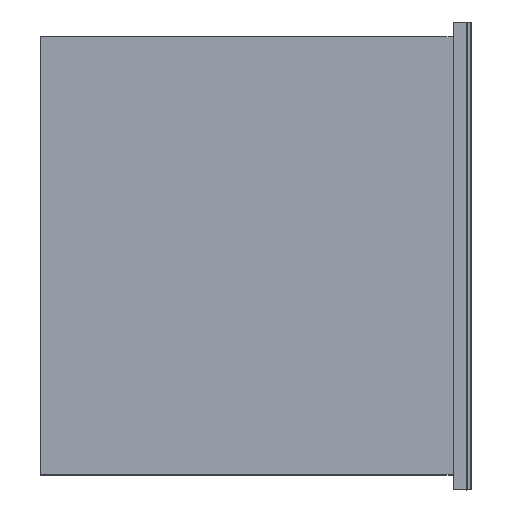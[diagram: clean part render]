
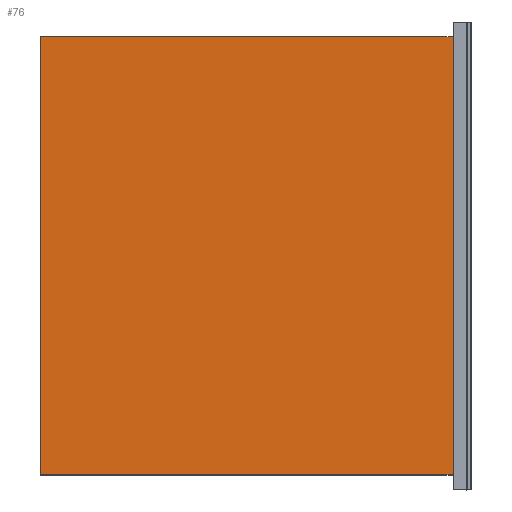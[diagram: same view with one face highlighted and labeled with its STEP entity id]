
A CAD part, top view. The second image highlights one B-rep face of the part: STEP entity #76.
In plain terms, the highlighted free-form (B-spline) face has degree [1, 1] with [2, 2] control points.
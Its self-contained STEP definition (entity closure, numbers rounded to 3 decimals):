
#76=ADVANCED_FACE('',(#104),#360,.T.);
#104=FACE_OUTER_BOUND('',#132,.T.);
#132=EDGE_LOOP('',(#229,#230,#231,#232));
#229=ORIENTED_EDGE('',*,*,#297,.F.);
#230=ORIENTED_EDGE('',*,*,#298,.T.);
#231=ORIENTED_EDGE('',*,*,#299,.T.);
#232=ORIENTED_EDGE('',*,*,#294,.F.);
#294=EDGE_CURVE('',#333,#335,#406,.T.);
#297=EDGE_CURVE('',#337,#333,#409,.T.);
#298=EDGE_CURVE('',#337,#338,#410,.T.);
#299=EDGE_CURVE('',#338,#335,#411,.T.);
#333=VERTEX_POINT('',#776);
#335=VERTEX_POINT('',#778);
#337=VERTEX_POINT('',#780);
#338=VERTEX_POINT('',#781);
#360=B_SPLINE_SURFACE_WITH_KNOTS('',1,1,((#756,#757),(#758,#759)),.UNSPECIFIED.,
.F.,.F.,.F.,(2,2),(2,2),(0.,1.),(0.,1.),.UNSPECIFIED.);
#406=B_SPLINE_CURVE_WITH_KNOTS('',1,(#730,#731),.UNSPECIFIED.,.F.,.F.,(2,
2),(0.,1.),.UNSPECIFIED.);
#409=B_SPLINE_CURVE_WITH_KNOTS('',1,(#736,#737),.UNSPECIFIED.,.F.,.F.,(2,
2),(0.,1.),.UNSPECIFIED.);
#410=B_SPLINE_CURVE_WITH_KNOTS('',1,(#738,#739),.UNSPECIFIED.,.F.,.F.,(2,
2),(0.,1.),.UNSPECIFIED.);
#411=B_SPLINE_CURVE_WITH_KNOTS('',1,(#740,#741),.UNSPECIFIED.,.F.,.F.,(2,
2),(0.,1.),.UNSPECIFIED.);
#730=CARTESIAN_POINT('',(-524.372,-278.612,141.058));
#731=CARTESIAN_POINT('',(-524.372,278.388,141.058));
#736=CARTESIAN_POINT('',(-0.003,-278.612,141.118));
#737=CARTESIAN_POINT('',(-524.372,-278.612,141.058));
#738=CARTESIAN_POINT('',(-0.003,-278.612,141.118));
#739=CARTESIAN_POINT('',(-0.003,278.388,141.118));
#740=CARTESIAN_POINT('',(-0.003,278.388,141.118));
#741=CARTESIAN_POINT('',(-524.372,278.388,141.058));
#756=CARTESIAN_POINT('',(-0.003,-278.612,141.118));
#757=CARTESIAN_POINT('',(-524.372,-278.612,141.058));
#758=CARTESIAN_POINT('',(-0.003,278.388,141.118));
#759=CARTESIAN_POINT('',(-524.372,278.388,141.058));
#776=CARTESIAN_POINT('',(-524.372,-278.612,141.058));
#778=CARTESIAN_POINT('',(-524.372,278.388,141.058));
#780=CARTESIAN_POINT('',(-0.003,-278.612,141.118));
#781=CARTESIAN_POINT('',(-0.003,278.388,141.118));
